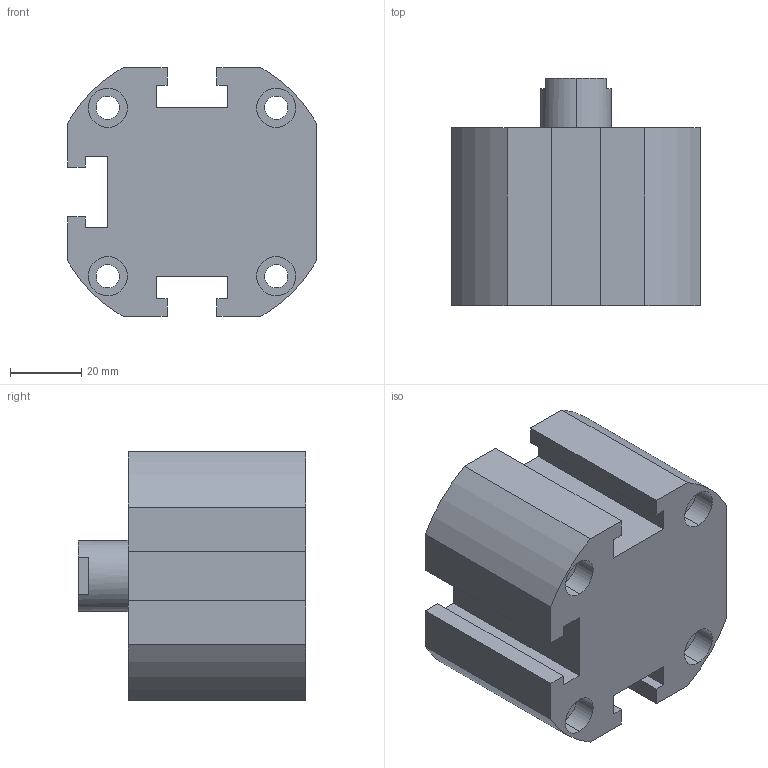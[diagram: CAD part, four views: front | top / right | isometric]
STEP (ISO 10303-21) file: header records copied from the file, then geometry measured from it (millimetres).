
FILE_DESCRIPTION (( 'STEP AP203' ), '1' );
FILE_NAME ('XG#0-50D-10.STEP', '2016-05-24T01:38:28', ( '' ), ( '' ), 'SwSTEP 2.0', 'SolidWorks 2014', '' );
FILE_SCHEMA (( 'CONFIG_CONTROL_DESIGN' ));
Length unit declared in the file: millimetre
Products named in the file (1): XG#0-50D-10
Bounding box: 70 x 64 x 70 mm (x, y, z)
Volume: 187571.5 mm3; surface area: 31920.9 mm2
Topology: 1 solids, 1 shells, 107 faces, 267 edges, 174 vertices
Faces by surface type: cylinder 52, plane 49, cone 6
Entity records: 3290 total; most frequent: DIRECTION 591, CARTESIAN_POINT 545, ORIENTED_EDGE 526, EDGE_CURVE 263, AXIS2_PLACEMENT_3D 220, VERTEX_POINT 174, VECTOR 151, LINE 151
